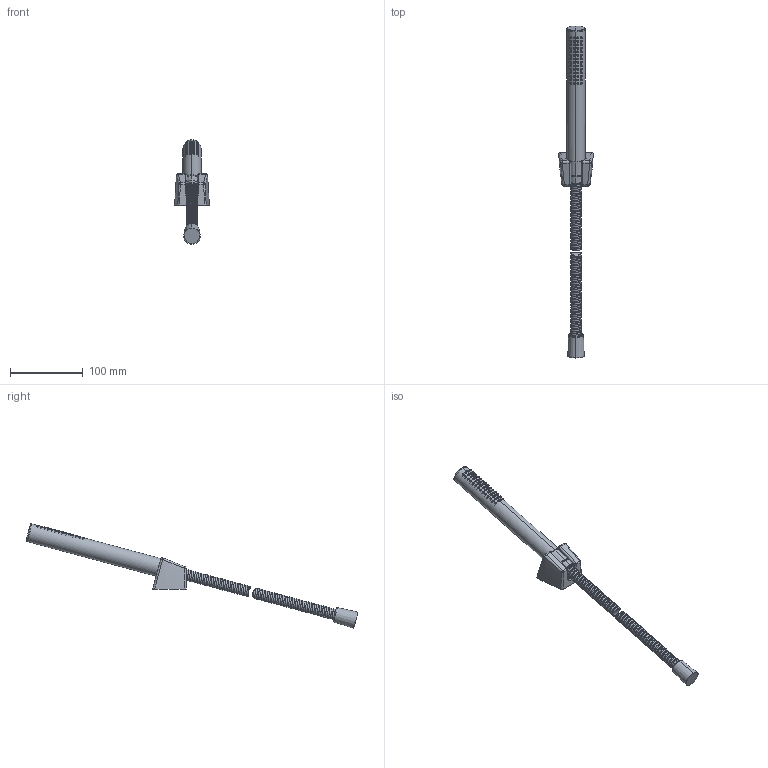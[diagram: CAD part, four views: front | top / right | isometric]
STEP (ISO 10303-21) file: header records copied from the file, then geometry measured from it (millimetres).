
FILE_DESCRIPTION((''),'2;1');
FILE_NAME('76527--','2026-09-23T15:49:05',('simi1'),(''),'CREO PARAMETRIC BY PTC INC, 2022244','CREO PARAMETRIC BY PTC INC, 2022244','');
FILE_SCHEMA(('CONFIG_CONTROL_DESIGN'));
Length unit declared in the file: millimetre
Products named in the file (1): 76527--
Bounding box: 47.64 x 457.06 x 143.86 mm (x, y, z)
Surface area: 49210.5 mm2 (no closed solid volume)
Topology: 0 solids, 68 shells, 513 faces, 1198 edges, 751 vertices
Faces by surface type: cylinder 227, torus 129, plane 77, bspline 58, cone 12, sphere 10
Entity records: 32164 total; most frequent: CARTESIAN_POINT 21352, ORIENTED_EDGE 2192, DIRECTION 2151, EDGE_CURVE 1196, AXIS2_PLACEMENT_3D 918, VERTEX_POINT 751, EDGE_LOOP 513, FACE_OUTER_BOUND 513
